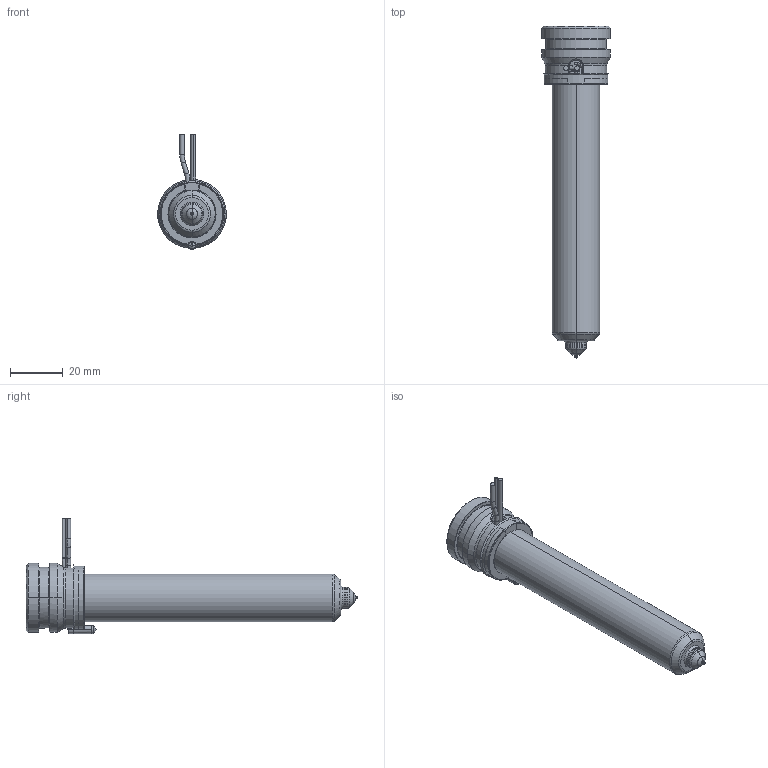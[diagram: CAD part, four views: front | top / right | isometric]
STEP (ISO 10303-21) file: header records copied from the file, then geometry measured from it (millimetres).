
FILE_DESCRIPTION((''),'2;1');
FILE_NAME('MPN-08-24-VX8-106-A','2026-02-05T11:59:58',('UPTIO'),('Thermoplay S.p.A.'),'CREO PARAMETRIC BY PTC INC, 2023494','CREO PARAMETRIC BY PTC INC, 2023494','');
FILE_SCHEMA(('CONFIG_CONTROL_DESIGN','SHAPE_APPEARANCE_LAYERS_GROUPS'));
Length unit declared in the file: millimetre
Products named in the file (1): MPN-08-24-VX8-106-A
Bounding box: 26 x 125.5 x 43.5 mm (x, y, z)
Volume: 24367.5 mm3; surface area: 31004.8 mm2
Topology: 2 solids, 3 shells, 545 faces, 1438 edges, 891 vertices
Faces by surface type: cylinder 180, plane 143, bspline 82, cone 62, torus 62, sphere 10, extrusion 6
Entity records: 28529 total; most frequent: CARTESIAN_POINT 12290, ORIENTED_EDGE 2860, DIRECTION 2578, EDGE_CURVE 1430, AXIS2_PLACEMENT_3D 1007, VERTEX_POINT 891, EDGE_LOOP 573, VECTOR 564
